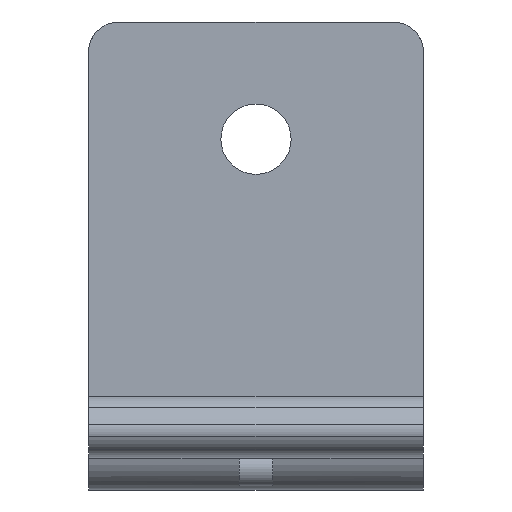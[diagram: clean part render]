
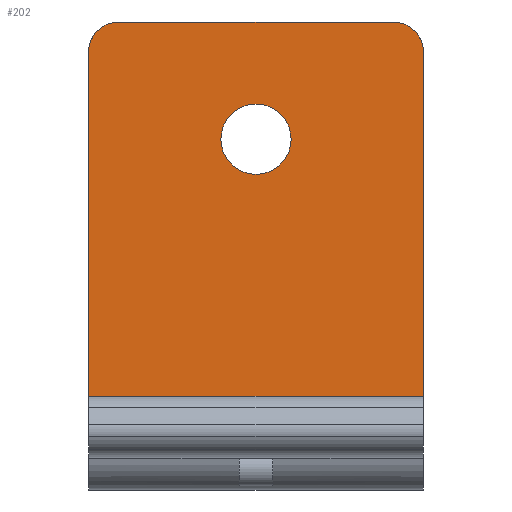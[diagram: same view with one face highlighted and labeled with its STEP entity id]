
A CAD part, top view. The second image highlights one B-rep face of the part: STEP entity #202.
In plain terms, the highlighted planar face has unit normal (0, 0, 1).
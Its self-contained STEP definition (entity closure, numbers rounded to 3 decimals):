
#11 = EDGE_CURVE ( 'NONE', #752, #811, #1009, .T. ) ;
#28 = CARTESIAN_POINT ( 'NONE',  ( 10., -40.503, -42.497 ) ) ;
#35 = ORIENTED_EDGE ( 'NONE', *, *, #831, .F. ) ;
#37 = DIRECTION ( 'NONE',  ( 0., 0., 1. ) ) ;
#61 = DIRECTION ( 'NONE',  ( 0., 0., 1. ) ) ;
#68 = AXIS2_PLACEMENT_3D ( 'NONE', #530, #37, #611 ) ;
#110 = DIRECTION ( 'NONE',  ( 0., 0., -1. ) ) ;
#119 = CARTESIAN_POINT ( 'NONE',  ( 0., -24.103, -42.497 ) ) ;
#120 = CARTESIAN_POINT ( 'NONE',  ( 10., -37.351, -42.497 ) ) ;
#134 = CARTESIAN_POINT ( 'NONE',  ( -10., -37.351, -42.497 ) ) ;
#144 = VERTEX_POINT ( 'NONE', #1018 ) ;
#155 = EDGE_CURVE ( 'NONE', #917, #811, #429, .T. ) ;
#158 = EDGE_CURVE ( 'NONE', #737, #255, #239, .T. ) ;
#182 = FACE_OUTER_BOUND ( 'NONE', #849, .T. ) ;
#186 = LINE ( 'NONE', #510, #1062 ) ;
#187 = DIRECTION ( 'NONE',  ( 0., 1., 0. ) ) ;
#200 = VECTOR ( 'NONE', #527, 1000. ) ;
#202 = ADVANCED_FACE ( 'NONE', ( #803, #182 ), #678, .F. ) ;
#230 = LINE ( 'NONE', #28, #200 ) ;
#239 = LINE ( 'NONE', #262, #408 ) ;
#252 = ORIENTED_EDGE ( 'NONE', *, *, #155, .F. ) ;
#255 = VERTEX_POINT ( 'NONE', #120 ) ;
#262 = CARTESIAN_POINT ( 'NONE',  ( -10., -37.351, -42.497 ) ) ;
#289 = DIRECTION ( 'NONE',  ( 0., 1., 0. ) ) ;
#346 = CIRCLE ( 'NONE', #660, 1.8 ) ;
#380 = EDGE_CURVE ( 'NONE', #917, #144, #346, .T. ) ;
#408 = VECTOR ( 'NONE', #508, 1000. ) ;
#429 = LINE ( 'NONE', #591, #846 ) ;
#438 = AXIS2_PLACEMENT_3D ( 'NONE', #938, #110, #680 ) ;
#442 = CARTESIAN_POINT ( 'NONE',  ( 8.2, -15.003, -42.497 ) ) ;
#457 = CARTESIAN_POINT ( 'NONE',  ( 8.2, -16.803, -42.497 ) ) ;
#466 = ORIENTED_EDGE ( 'NONE', *, *, #380, .T. ) ;
#470 = CIRCLE ( 'NONE', #68, 2.1 ) ;
#479 = CARTESIAN_POINT ( 'NONE',  ( -8.2, -16.803, -42.497 ) ) ;
#504 = CIRCLE ( 'NONE', #560, 2.1 ) ;
#508 = DIRECTION ( 'NONE',  ( 1., 0., 0. ) ) ;
#510 = CARTESIAN_POINT ( 'NONE',  ( -10., -40.503, -42.497 ) ) ;
#511 = AXIS2_PLACEMENT_3D ( 'NONE', #457, #1055, #289 ) ;
#527 = DIRECTION ( 'NONE',  ( 0., 1., 0. ) ) ;
#530 = CARTESIAN_POINT ( 'NONE',  ( 0., -22.003, -42.497 ) ) ;
#531 = ORIENTED_EDGE ( 'NONE', *, *, #158, .T. ) ;
#557 = CARTESIAN_POINT ( 'NONE',  ( 0., -22.003, -42.497 ) ) ;
#560 = AXIS2_PLACEMENT_3D ( 'NONE', #557, #61, #631 ) ;
#568 = DIRECTION ( 'NONE',  ( 0., 1., 0. ) ) ;
#590 = EDGE_CURVE ( 'NONE', #737, #144, #186, .T. ) ;
#591 = CARTESIAN_POINT ( 'NONE',  ( -10., -15.003, -42.497 ) ) ;
#611 = DIRECTION ( 'NONE',  ( 0., -1., 0. ) ) ;
#620 = CARTESIAN_POINT ( 'NONE',  ( -8.2, -15.003, -42.497 ) ) ;
#631 = DIRECTION ( 'NONE',  ( 0., -1., 0. ) ) ;
#651 = VERTEX_POINT ( 'NONE', #119 ) ;
#660 = AXIS2_PLACEMENT_3D ( 'NONE', #479, #1078, #568 ) ;
#671 = DIRECTION ( 'NONE',  ( 1., 0., 0. ) ) ;
#678 = PLANE ( 'NONE',  #438 ) ;
#680 = DIRECTION ( 'NONE',  ( 0., 1., 0. ) ) ;
#711 = ORIENTED_EDGE ( 'NONE', *, *, #821, .T. ) ;
#722 = EDGE_LOOP ( 'NONE', ( #1043, #35 ) ) ;
#724 = CARTESIAN_POINT ( 'NONE',  ( 0., -19.903, -42.497 ) ) ;
#737 = VERTEX_POINT ( 'NONE', #134 ) ;
#752 = VERTEX_POINT ( 'NONE', #963 ) ;
#803 = FACE_BOUND ( 'NONE', #722, .T. ) ;
#811 = VERTEX_POINT ( 'NONE', #442 ) ;
#821 = EDGE_CURVE ( 'NONE', #255, #752, #230, .T. ) ;
#831 = EDGE_CURVE ( 'NONE', #1031, #651, #470, .T. ) ;
#846 = VECTOR ( 'NONE', #671, 1000. ) ;
#847 = ORIENTED_EDGE ( 'NONE', *, *, #11, .T. ) ;
#849 = EDGE_LOOP ( 'NONE', ( #252, #466, #876, #531, #711, #847 ) ) ;
#876 = ORIENTED_EDGE ( 'NONE', *, *, #590, .F. ) ;
#917 = VERTEX_POINT ( 'NONE', #620 ) ;
#938 = CARTESIAN_POINT ( 'NONE',  ( -10., -40.503, -42.497 ) ) ;
#963 = CARTESIAN_POINT ( 'NONE',  ( 10., -16.803, -42.497 ) ) ;
#1007 = EDGE_CURVE ( 'NONE', #651, #1031, #504, .T. ) ;
#1009 = CIRCLE ( 'NONE', #511, 1.8 ) ;
#1018 = CARTESIAN_POINT ( 'NONE',  ( -10., -16.803, -42.497 ) ) ;
#1031 = VERTEX_POINT ( 'NONE', #724 ) ;
#1043 = ORIENTED_EDGE ( 'NONE', *, *, #1007, .F. ) ;
#1055 = DIRECTION ( 'NONE',  ( 0., 0., 1. ) ) ;
#1062 = VECTOR ( 'NONE', #187, 1000. ) ;
#1078 = DIRECTION ( 'NONE',  ( 0., 0., 1. ) ) ;
